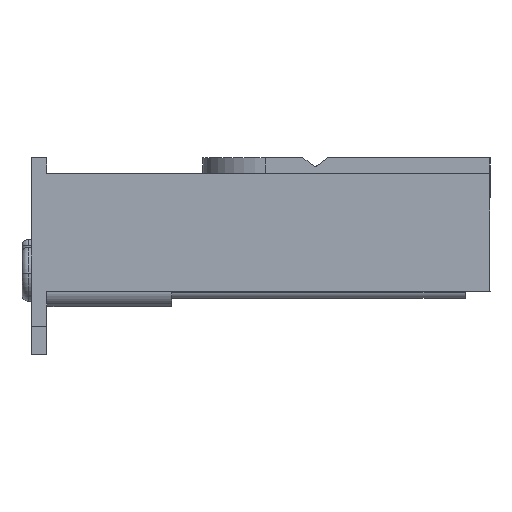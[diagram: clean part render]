
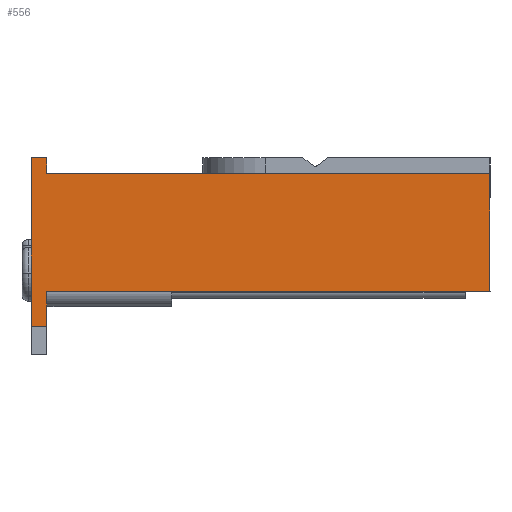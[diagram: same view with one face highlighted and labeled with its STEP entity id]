
A CAD part, left-side view. The second image highlights one B-rep face of the part: STEP entity #556.
In plain terms, the highlighted planar face has unit normal (-1, 0, 0).
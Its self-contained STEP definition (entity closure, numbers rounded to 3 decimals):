
#207 = CARTESIAN_POINT ( 'NONE',  ( -52.5, 73.5, 31.5 ) ) ;
#214 = PLANE ( 'NONE',  #7808 ) ;
#216 = DIRECTION ( 'NONE',  ( 1., 0., 0. ) ) ;
#217 = DIRECTION ( 'NONE',  ( 0., 1., 0. ) ) ;
#556 = ADVANCED_FACE ( 'NONE', ( #9111 ), #214, .F. ) ;
#931 = EDGE_CURVE ( 'NONE', #4684, #6535, #9751, .T. ) ;
#932 = EDGE_CURVE ( 'NONE', #4718, #1216, #9749, .T. ) ;
#933 = EDGE_CURVE ( 'NONE', #2688, #1216, #9753, .T. ) ;
#934 = EDGE_CURVE ( 'NONE', #4687, #2683, #9755, .T. ) ;
#935 = EDGE_CURVE ( 'NONE', #6536, #4708, #9757, .T. ) ;
#1216 = VERTEX_POINT ( 'NONE', #11962 ) ;
#2683 = VERTEX_POINT ( 'NONE', #13992 ) ;
#2688 = VERTEX_POINT ( 'NONE', #13997 ) ;
#3241 = EDGE_CURVE ( 'NONE', #6536, #6535, #13006, .T. ) ;
#3847 = EDGE_LOOP ( 'NONE', ( #8075, #8076, #8077, #8078, #8079, #8080, #8081, #8082, #8083 ) ) ;
#4684 = VERTEX_POINT ( 'NONE', #16404 ) ;
#4687 = VERTEX_POINT ( 'NONE', #16407 ) ;
#4708 = VERTEX_POINT ( 'NONE', #16428 ) ;
#4718 = VERTEX_POINT ( 'NONE', #16438 ) ;
#4961 = EDGE_CURVE ( 'NONE', #2683, #2688, #15449, .T. ) ;
#5089 = EDGE_CURVE ( 'NONE', #4687, #4708, #15671, .T. ) ;
#5099 = EDGE_CURVE ( 'NONE', #4718, #4684, #15691, .T. ) ;
#6535 = VERTEX_POINT ( 'NONE', #20630 ) ;
#6536 = VERTEX_POINT ( 'NONE', #20631 ) ;
#7808 = AXIS2_PLACEMENT_3D ( 'NONE', #207, #216, #217 ) ;
#8075 = ORIENTED_EDGE ( 'NONE', *, *, #3241, .T. ) ;
#8076 = ORIENTED_EDGE ( 'NONE', *, *, #931, .F. ) ;
#8077 = ORIENTED_EDGE ( 'NONE', *, *, #5099, .F. ) ;
#8078 = ORIENTED_EDGE ( 'NONE', *, *, #932, .T. ) ;
#8079 = ORIENTED_EDGE ( 'NONE', *, *, #933, .F. ) ;
#8080 = ORIENTED_EDGE ( 'NONE', *, *, #4961, .F. ) ;
#8081 = ORIENTED_EDGE ( 'NONE', *, *, #934, .F. ) ;
#8082 = ORIENTED_EDGE ( 'NONE', *, *, #5089, .T. ) ;
#8083 = ORIENTED_EDGE ( 'NONE', *, *, #935, .F. ) ;
#9111 = FACE_OUTER_BOUND ( 'NONE', #3847, .T. ) ;
#9749 = LINE ( 'NONE', #11358, #9756 ) ;
#9751 = LINE ( 'NONE', #11364, #9754 ) ;
#9753 = LINE ( 'NONE', #11361, #9758 ) ;
#9754 = VECTOR ( 'NONE', #11366, 1000. ) ;
#9755 = LINE ( 'NONE', #11365, #9760 ) ;
#9756 = VECTOR ( 'NONE', #11367, 1000. ) ;
#9757 = LINE ( 'NONE', #11368, #9762 ) ;
#9758 = VECTOR ( 'NONE', #11369, 1000. ) ;
#9760 = VECTOR ( 'NONE', #11371, 1000. ) ;
#9762 = VECTOR ( 'NONE', #11373, 1000. ) ;
#11358 = CARTESIAN_POINT ( 'NONE',  ( -52.5, 71., 10. ) ) ;
#11361 = CARTESIAN_POINT ( 'NONE',  ( -52.5, 0., 31.5 ) ) ;
#11364 = CARTESIAN_POINT ( 'NONE',  ( -52.5, 60.379, 4.5 ) ) ;
#11365 = CARTESIAN_POINT ( 'NONE',  ( -52.5, 71., 29. ) ) ;
#11366 = DIRECTION ( 'NONE',  ( 0., 1., 0. ) ) ;
#11367 = DIRECTION ( 'NONE',  ( 0., -1., 0. ) ) ;
#11368 = CARTESIAN_POINT ( 'NONE',  ( -52.5, 73.5, 31.5 ) ) ;
#11369 = DIRECTION ( 'NONE',  ( 0., 0., -1. ) ) ;
#11371 = DIRECTION ( 'NONE',  ( 0., -1., 0. ) ) ;
#11373 = DIRECTION ( 'NONE',  ( 0., -1., 0. ) ) ;
#11962 = CARTESIAN_POINT ( 'NONE',  ( -52.5, 0., 10. ) ) ;
#13006 = LINE ( 'NONE', #14102, #13009 ) ;
#13009 = VECTOR ( 'NONE', #14103, 1000. ) ;
#13992 = CARTESIAN_POINT ( 'NONE',  ( -52.5, 0., 29. ) ) ;
#13997 = CARTESIAN_POINT ( 'NONE',  ( -52.5, 0., 21. ) ) ;
#14102 = CARTESIAN_POINT ( 'NONE',  ( -52.5, 73.5, 31.5 ) ) ;
#14103 = DIRECTION ( 'NONE',  ( 0., 0., -1. ) ) ;
#15449 = LINE ( 'NONE', #16722, #15452 ) ;
#15452 = VECTOR ( 'NONE', #16723, 1000. ) ;
#15671 = LINE ( 'NONE', #17012, #15674 ) ;
#15674 = VECTOR ( 'NONE', #17013, 1000. ) ;
#15691 = LINE ( 'NONE', #17032, #15694 ) ;
#15694 = VECTOR ( 'NONE', #17033, 1000. ) ;
#16404 = CARTESIAN_POINT ( 'NONE',  ( -52.5, 71., 4.5 ) ) ;
#16407 = CARTESIAN_POINT ( 'NONE',  ( -52.5, 71., 29. ) ) ;
#16428 = CARTESIAN_POINT ( 'NONE',  ( -52.5, 71., 31.5 ) ) ;
#16438 = CARTESIAN_POINT ( 'NONE',  ( -52.5, 71., 10. ) ) ;
#16722 = CARTESIAN_POINT ( 'NONE',  ( -52.5, 0., 31.5 ) ) ;
#16723 = DIRECTION ( 'NONE',  ( 0., 0., -1. ) ) ;
#17012 = CARTESIAN_POINT ( 'NONE',  ( -52.5, 71., 29. ) ) ;
#17013 = DIRECTION ( 'NONE',  ( 0., 0., 1. ) ) ;
#17032 = CARTESIAN_POINT ( 'NONE',  ( -52.5, 71., 10. ) ) ;
#17033 = DIRECTION ( 'NONE',  ( 0., 0., -1. ) ) ;
#20630 = CARTESIAN_POINT ( 'NONE',  ( -52.5, 73.5, 4.5 ) ) ;
#20631 = CARTESIAN_POINT ( 'NONE',  ( -52.5, 73.5, 31.5 ) ) ;
